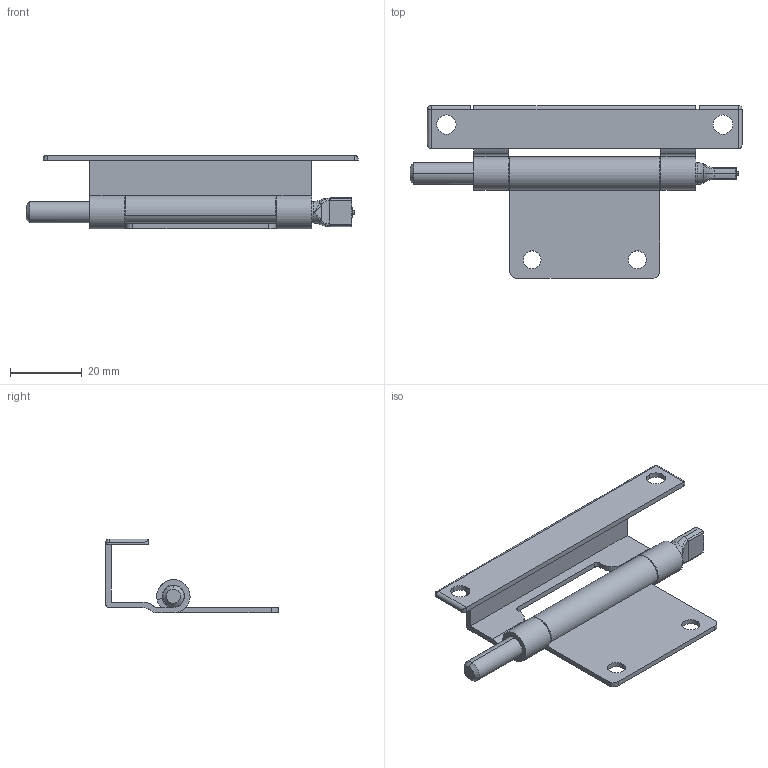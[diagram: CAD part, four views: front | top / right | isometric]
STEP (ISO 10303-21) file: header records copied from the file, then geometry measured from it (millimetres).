
FILE_DESCRIPTION (( 'STEP AP214' ), '1' );
FILE_NAME ('CL290.STEP', '2023-08-24T00:16:31', ( '' ), ( '' ), 'SwSTEP 2.0', 'SolidWorks 2019', '' );
FILE_SCHEMA (( 'AUTOMOTIVE_DESIGN' ));
Length unit declared in the file: millimetre
Products named in the file (1): CL290
Bounding box: 92.87 x 48.3 x 20.66 mm (x, y, z)
Volume: 9836 mm3; surface area: 12643.5 mm2
Topology: 3 solids, 3 shells, 127 faces, 333 edges, 210 vertices
Faces by surface type: cylinder 60, plane 41, bspline 14, torus 6, cone 4, sphere 2
Entity records: 4542 total; most frequent: CARTESIAN_POINT 1438, ORIENTED_EDGE 662, DIRECTION 614, EDGE_CURVE 331, AXIS2_PLACEMENT_3D 230, VERTEX_POINT 210, LINE 154, VECTOR 154
